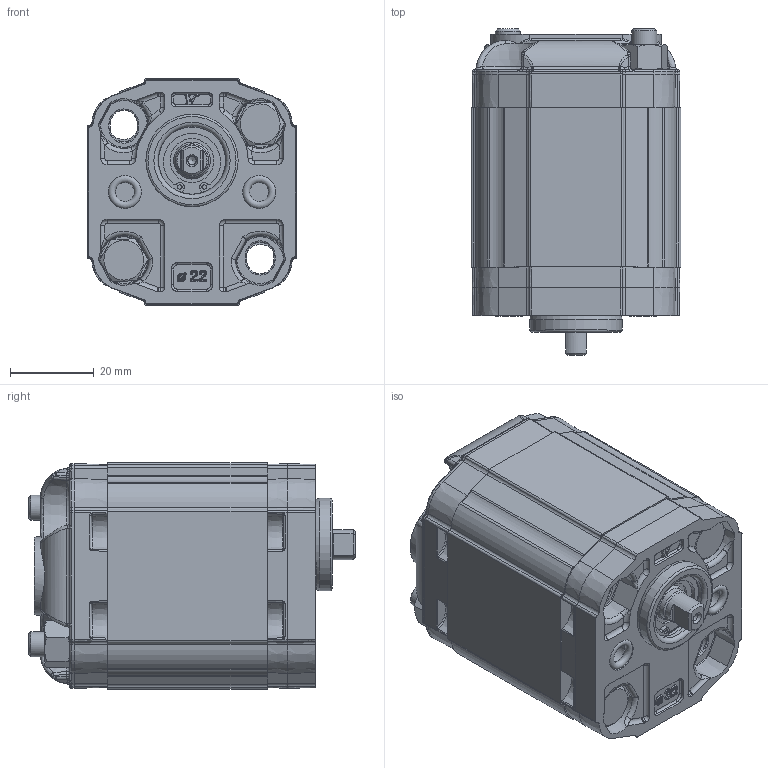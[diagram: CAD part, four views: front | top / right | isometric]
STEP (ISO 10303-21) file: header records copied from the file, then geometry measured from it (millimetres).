
FILE_DESCRIPTION(/* description */ ('Unknown'),/* implementation_level */ '2;1');
FILE_NAME(/* name */ 'X0M0924BZZE',/* time_stamp */ '2026-05-25T17:22:35+02:00',/* author */ ('Unknown'),/* organization */ ('Unknown'),/* preprocessor_version */ 'ST-DEVELOPER v16.7',/* originating_system */ 'Solid Edge',/* authorisation */ 'Unknown');
FILE_SCHEMA (('AUTOMOTIVE_DESIGN {1 0 10303 214 3 1 1}'));
Products named in the file (5): X0M0924BZZE; X0M24; 0B; X0ZZH38; XM017-E
Assembly tree (4 placements, depth 2):
  X0M0924BZZE
    X0M24
    0B
    X0ZZH38
    XM017-E
Bounding box: 50 x 77.8 x 54 mm (x, y, z)
Volume: 143921.5 mm3; surface area: 36276.4 mm2
Topology: 5 solids, 7 shells, 1581 faces, 3841 edges, 2289 vertices
Faces by surface type: cylinder 449, plane 379, bspline 329, cone 227, torus 164, sphere 33
Full cylindrical faces by diameter (mm): 1.053 x2, 2 x1, 5 x2, 6 x4, 6.01 x2, 6.5 x4, 6.511 x1, 6.518 x1, 7.16 x1, 7.5 x2, 7.9 x4, 7.92 x1, 8 x2, 9.318 x1, 10 x2, 10.445 x1, 11 x1, 11.445 x1, 13 x1, 14 x1, 16 x1, 16.2 x1, 16.8 x1, 22 x1
Entity records: 105233 total; most frequent: CARTESIAN_POINT 60331, ORIENTED_EDGE 7310, DIRECTION 6494, EDGE_CURVE 3655, AXIS2_PLACEMENT_3D 2696, VERTEX_POINT 2235, FACE_BOUND 1780, EDGE_LOOP 1779
